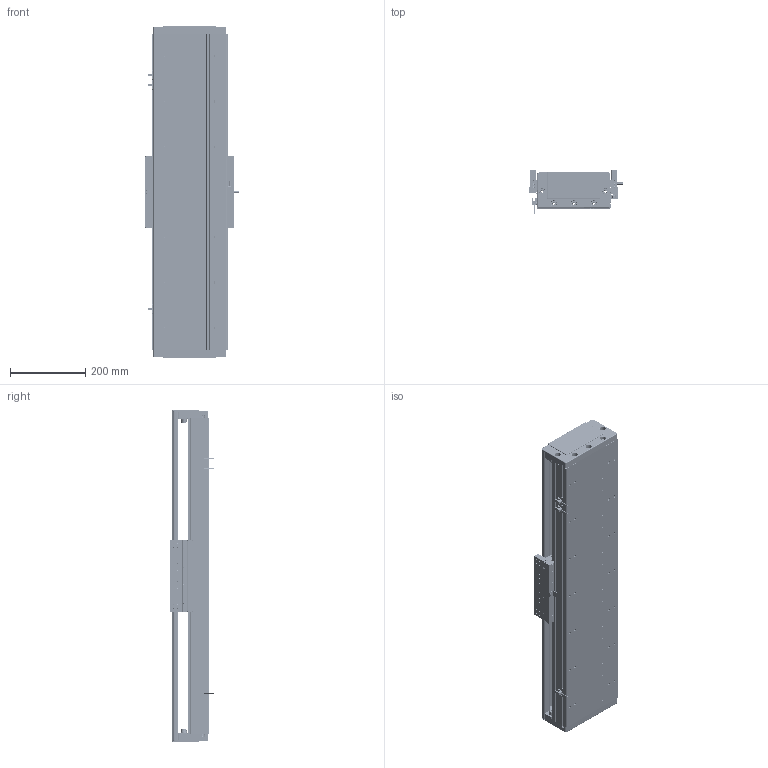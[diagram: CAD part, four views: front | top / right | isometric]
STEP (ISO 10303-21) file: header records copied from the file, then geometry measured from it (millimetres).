
FILE_DESCRIPTION (( 'STEP AP203' ), '1' );
FILE_NAME ('DA-C195-C2-T600-C010-0.2 眻盄萇儂.STEP', '2025-08-15T01:01:01', ( '' ), ( '' ), 'SwSTEP 2.0', 'SolidWorks 2019', '' );
FILE_SCHEMA (( 'CONFIG_CONTROL_DESIGN' ));
Length unit declared in the file: millimetre
Products named in the file (12): DA95-HXJ-00 遣喳砎蝶; CU195-C2賑輸-俋楷; 葩璃 DA95-GT-T-00; PM-T45ㄗ侂狟ㄘ; IU-CU195-L-00 菁釱(L840); DA195-DG-H-00  端盖（压铸镂空版）; MS200 棠掑喜S315-T240; LMT黍杅芛; 66156-0001-003-00 裔啣; 66156-0001-005-00 光电感应片(默认); IU-CU195-L 菁釱絳寢; DA-C195-C2-T600-C010-0.2 眻盄萇儂
Assembly tree (20 placements, depth 3):
  DA-C195-C2-T600-C010-0.2 眻盄萇儂
    IU-CU195-L 菁釱絳寢
      IU-CU195-L-00 菁釱(L840)
      葩璃 DA95-GT-T-00  x4
    LMT黍杅芛
    MS200 棠掑喜S315-T240
    PM-T45ㄗ侂狟ㄘ  x3
    66156-0001-005-00 光电感应片(默认)
    DA195-DG-H-00  端盖（压铸镂空版）  x2
    DA95-HXJ-00 遣喳砎蝶  x4
    66156-0001-003-00 裔啣
    CU195-C2賑輸-俋楷
Bounding box: 248 x 115.6 x 880 mm (x, y, z)
Volume: 6558901.4 mm3; surface area: 1862666.4 mm2
Topology: 58 solids, 130 shells, 5113 faces, 12884 edges, 7801 vertices
Faces by surface type: cylinder 2133, plane 1630, bspline 710, cone 560, torus 44, sphere 36
Entity records: 137971 total; most frequent: CARTESIAN_POINT 42315, ORIENTED_EDGE 19822, DIRECTION 19304, EDGE_CURVE 9911, AXIS2_PLACEMENT_3D 7175, VERTEX_POINT 6231, VECTOR 4954, LINE 4954
